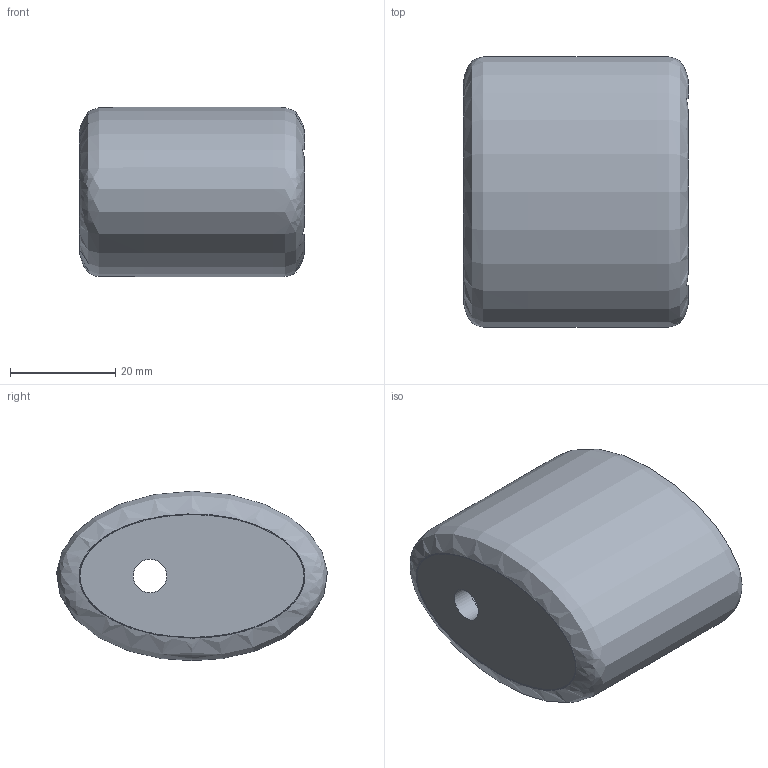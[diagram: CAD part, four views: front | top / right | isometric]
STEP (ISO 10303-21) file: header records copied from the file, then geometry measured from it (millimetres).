
FILE_DESCRIPTION(('FreeCAD Model'),'2;1');
FILE_NAME('Open CASCADE Shape Model','2026-11-20T08:25:37',('FreeCAD'),( 'FreeCAD'),'Open CASCADE STEP processor 7.8','FreeCAD','Unknown');
FILE_SCHEMA(('AUTOMOTIVE_DESIGN { 1 0 10303 214 1 1 1 1 }'));
Length unit declared in the file: millimetre
Products named in the file (1): Open CASCADE STEP translator 7.8 29
Bounding box: 43 x 51.56 x 32.25 mm (x, y, z)
Volume: 32761.4 mm3; surface area: 11922.4 mm2
Topology: 1 solids, 1 shells, 12 faces, 30 edges, 20 vertices
Faces by surface type: plane 10, bspline 1, cylinder 1
Full cylindrical faces by diameter (mm): 6.4 x1
Entity records: 886 total; most frequent: CARTESIAN_POINT 620, ORIENTED_EDGE 60, DIRECTION 41, EDGE_CURVE 30, VERTEX_POINT 20, AXIS2_PLACEMENT_3D 14, FACE_BOUND 14, EDGE_LOOP 14
